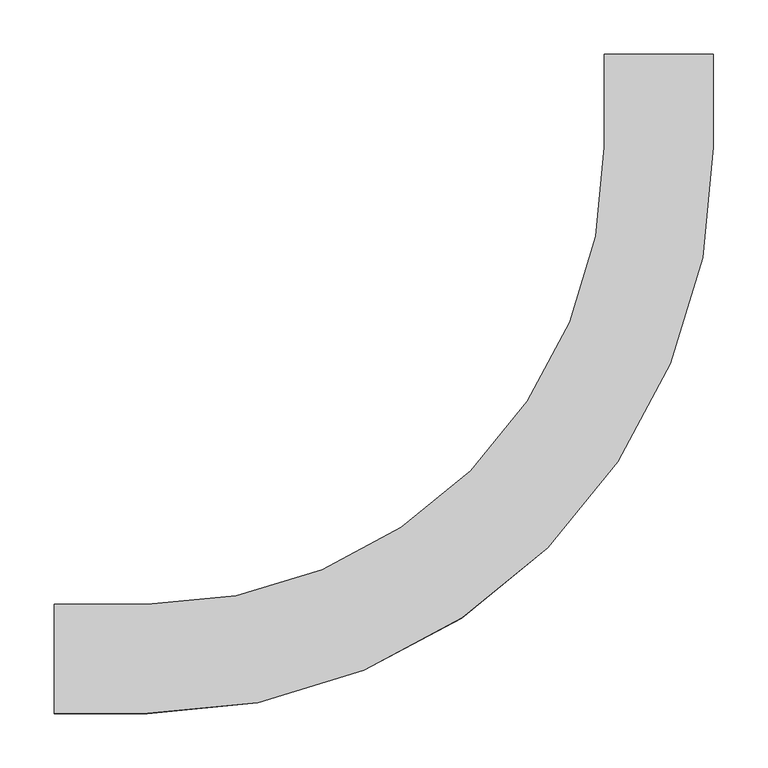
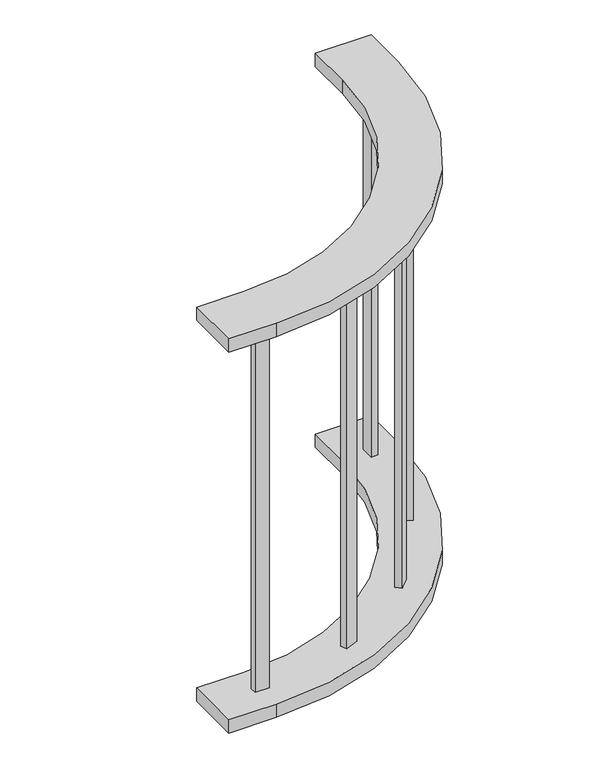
"""IFC4 building model written with IfcOpenShell, lengths in millimetres: cable carrier fitting geometry, BAKS_LD_BEND_Vertical bend 90deg external_LPDZV : LPDZVC_H100."""

from ifc_helpers import new_model, si_unit, point, frame, frame_2d, origin, place, context, project, spatial, polyline, circle_curve, trimmed, segment, composite_curve, outline, extrude, source, transform, mapped, element, save


def cable_carrier_fitting_c6f54cfa(model_context):
    return source(origin(), model_context, "Body", "SweptSolid", [
        extrude(outline(polyline([(-36.4598173, 304.1681574), (-25.3732629, 299.5759563), (-35.0934221, 276.1094161), (-46.1799765, 280.7016173), (-36.4598173, 304.1681574)])), frame((0.0, 0.0, -349.6), z_axis=(0.0, 0.0, 1.0), x_axis=(1.0, 0.0, 0.0)), (0.0, 0.0, 1.0), 699.2),
        extrude(outline(polyline([(-280.7016173, 46.1799765), (-276.1094161, 35.0934221), (-299.5759563, 25.3732629), (-304.1681574, 36.4598173), (-280.7016173, 46.1799765)])), frame((0.0, 0.0, -349.6), z_axis=(0.0, 0.0, 1.0), x_axis=(1.0, 0.0, 0.0)), (0.0, 0.0, 1.0), 699.2),
        extrude(outline(polyline([(-6.0, 482.7), (6.0, 482.7), (6.0, 457.3), (-6.0, 457.3), (-6.0, 482.7)])), frame((0.0, 0.0, -349.6), z_axis=(0.0, 0.0, 1.0), x_axis=(1.0, 0.0, 0.0)), (0.0, 0.0, 1.0), 699.2),
        extrude(outline(polyline([(-132.9221974, 150.8827097), (-124.436916, 142.3974283), (-142.3974283, 124.436916), (-150.8827097, 132.9221974), (-132.9221974, 150.8827097)])), frame((0.0, 0.0, -349.6), z_axis=(0.0, 0.0, 1.0), x_axis=(1.0, 0.0, 0.0)), (0.0, 0.0, 1.0), 699.2),
        extrude(outline(polyline([(-482.7, -6.0), (-482.7, 6.0), (-457.3, 6.0), (-457.3, -6.0), (-482.7, -6.0)])), frame((0.0, 0.0, -349.6), z_axis=(0.0, 0.0, 1.0), x_axis=(1.0, 0.0, 0.0)), (0.0, 0.0, 1.0), 699.2),
        extrude(outline(composite_curve([segment(polyline([(-555.0, -50.0), (-555.0, 50.0), (-470.0, 50.0)]), True, "CONTINUOUS"), segment(trimmed(circle_curve(frame_2d((-470.0, 470.0)), 420.0), [point((-470.0, 50.0))], [point((-50.0, 470.0))], True, "CARTESIAN"), True, "CONTINUOUS"), segment(polyline([(-50.0, 470.0), (-50.0, 555.0), (50.0, 555.0), (50.0, 470.0)]), True, "CONTINUOUS"), segment(trimmed(circle_curve(frame_2d((-470.0, 470.0)), 520.0), [point((50.0, 470.0))], [point((-470.0, -50.0))], False, "CARTESIAN"), True, "CONTINUOUS"), segment(polyline([(-470.0, -50.0), (-555.0, -50.0)]), True, "CONTINUOUS")], self_intersect=False)), frame((0.0, 0.0, 349.6), z_axis=(0.0, 0.0, 1.0), x_axis=(1.0, 0.0, 0.0)), (0.0, 0.0, 1.0), 25.4),
        extrude(outline(composite_curve([segment(polyline([(-555.0, -50.0), (-555.0, 50.0), (-470.0, 50.0)]), True, "CONTINUOUS"), segment(trimmed(circle_curve(frame_2d((-470.0, 470.0)), 420.0), [point((-470.0, 50.0))], [point((-50.0, 470.0))], True, "CARTESIAN"), True, "CONTINUOUS"), segment(polyline([(-50.0, 470.0), (-50.0, 555.0), (50.0, 555.0), (50.0, 470.0)]), True, "CONTINUOUS"), segment(trimmed(circle_curve(frame_2d((-470.0, 470.0)), 520.0), [point((50.0, 470.0))], [point((-470.0, -50.0))], False, "CARTESIAN"), True, "CONTINUOUS"), segment(polyline([(-470.0, -50.0), (-555.0, -50.0)]), True, "CONTINUOUS")], self_intersect=False)), frame((0.0, 0.0, -375.0), z_axis=(0.0, 0.0, 1.0), x_axis=(1.0, 0.0, 0.0)), (0.0, 0.0, 1.0), 25.4),
    ])


if __name__ == "__main__":
    model = new_model("IFC4")
    model_context = context("Model", 3, world=origin())
    ifc_project = project(units=[si_unit("LENGTHUNIT", "METRE", prefix="MILLI")], contexts=[model_context])
    site = spatial("IfcSite", under=ifc_project)
    building = spatial("IfcBuilding", under=site)
    placement = place(None, origin())
    cable_carrier_fitting_shape = cable_carrier_fitting_c6f54cfa(model_context)
    element("IfcCableCarrierFitting", 1, ObjectType="BAKS_LD_BEND_Vertical bend 90deg external_LPDZV : LPDZVC_H100", at=placement, inside=building, context=model_context, shape_type="MappedRepresentation", body=[
        mapped(cable_carrier_fitting_shape, transform((0.0, 0.0, 0.0), x_axis=(1.0, 0.0, 0.0), y_axis=(0.0, 1.0, 0.0), z_axis=(0.0, 0.0, 1.0))),
    ])
    save(model, "model.ifc")
